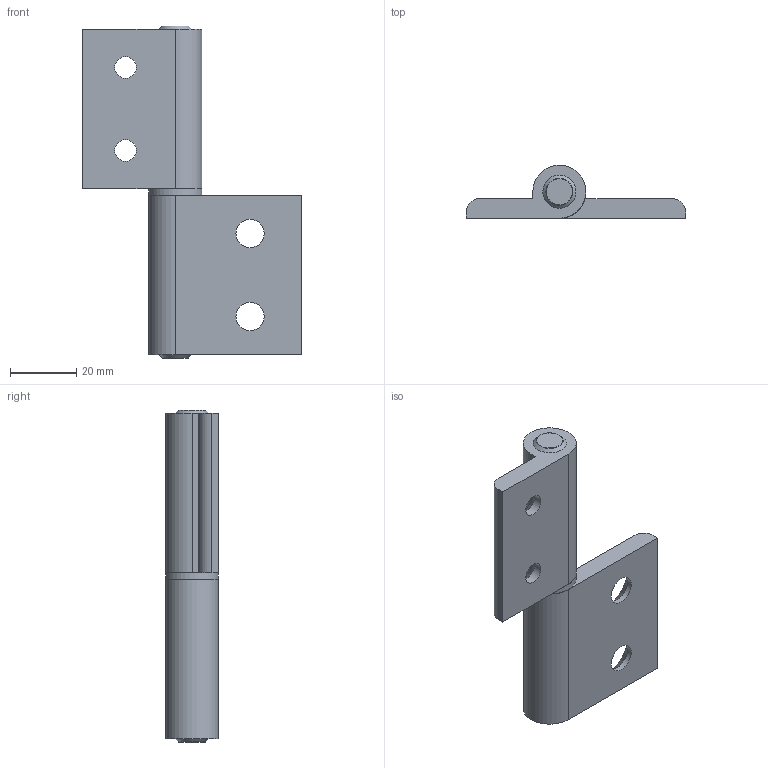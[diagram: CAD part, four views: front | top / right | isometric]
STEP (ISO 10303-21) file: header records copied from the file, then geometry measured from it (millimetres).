
FILE_DESCRIPTION(/* description */ ('Cerniera in Alluminio rimovibile parte SX profilo 30-45'),/* implementation_level */ '2;1');
FILE_NAME(/* name */ 'C:\Users\Stefan.Nesic\Desktop\01010STEP\HS30-45L.stp',/* time_stamp */ '2022-06-17T14:54:47+02:00',/* author */ ('USER'),/* organization */ ('Microsoft'),/* preprocessor_version */ 'ST-DEVELOPER v18.1',/* originating_system */ 'Autodesk Inventor 2021',/* authorisation */ '');
FILE_SCHEMA (('AUTOMOTIVE_DESIGN { 1 0 10303 214 3 1 1 }'));
Length unit declared in the file: millimetre
Products named in the file (1): HS30-45L
Bounding box: 66 x 16 x 100 mm (x, y, z)
Surface area: 11685.5 mm2 (no closed solid volume)
Topology: 0 solids, 5 shells, 33 faces, 75 edges, 50 vertices
Faces by surface type: plane 16, cylinder 9, cone 6, torus 2
Full cylindrical faces by diameter (mm): 6.5 x2, 8.5 x2, 16 x1
Entity records: 1015 total; most frequent: DIRECTION 179, CARTESIAN_POINT 159, ORIENTED_EDGE 142, EDGE_CURVE 75, AXIS2_PLACEMENT_3D 70, VERTEX_POINT 50, EDGE_LOOP 47, LINE 39
